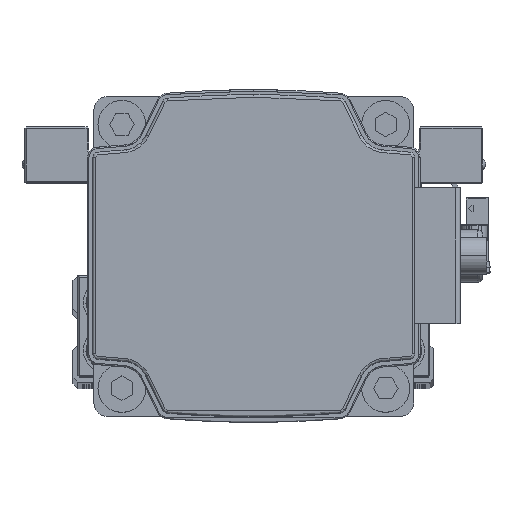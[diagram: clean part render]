
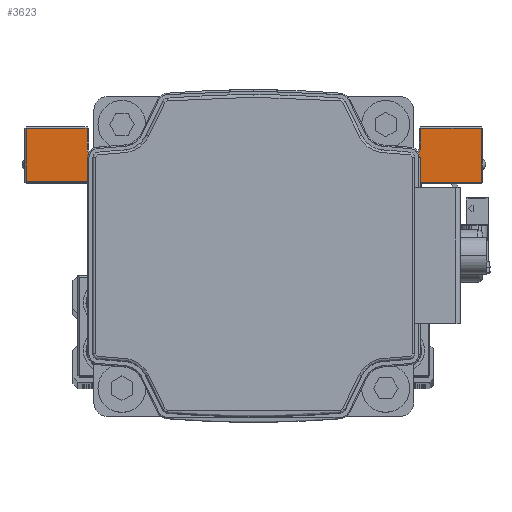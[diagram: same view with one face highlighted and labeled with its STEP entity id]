
A CAD part, top view. The second image highlights one B-rep face of the part: STEP entity #3623.
In plain terms, the highlighted planar face has unit normal (0, 0, 1) as drawn and (1, 0, 0) by its records, which use the part's own axes.
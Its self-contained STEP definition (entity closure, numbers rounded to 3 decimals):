
#79 = EDGE_CURVE ( 'NONE', #26409, #22979, #23887, .T. ) ;
#204 = VERTEX_POINT ( 'NONE', #18466 ) ;
#451 = EDGE_CURVE ( 'NONE', #204, #13661, #561, .T. ) ;
#561 = LINE ( 'NONE', #13721, #37555 ) ;
#1324 = CARTESIAN_POINT ( 'NONE',  ( 45., 14., 31.3 ) ) ;
#1489 = CARTESIAN_POINT ( 'NONE',  ( 45., 7.5, 19.7 ) ) ;
#2340 = DIRECTION ( 'NONE',  ( 0., -1., 0. ) ) ;
#2875 = CARTESIAN_POINT ( 'NONE',  ( 45., 7.5, -20. ) ) ;
#3623 = ADVANCED_FACE ( 'NONE', ( #19251 ), #32385, .F. ) ;
#4107 = CARTESIAN_POINT ( 'NONE',  ( 45., 7.5, -19.7 ) ) ;
#4463 = DIRECTION ( 'NONE',  ( -1., 0., 0. ) ) ;
#4872 = LINE ( 'NONE', #18016, #32530 ) ;
#5010 = CARTESIAN_POINT ( 'NONE',  ( 45., 17.7, 31.3 ) ) ;
#5025 = VECTOR ( 'NONE', #36927, 1000. ) ;
#5233 = CARTESIAN_POINT ( 'NONE',  ( 45., 14., -30. ) ) ;
#5829 = ORIENTED_EDGE ( 'NONE', *, *, #10706, .T. ) ;
#6176 = VECTOR ( 'NONE', #7527, 1000. ) ;
#7442 = LINE ( 'NONE', #20566, #22603 ) ;
#7527 = DIRECTION ( 'NONE',  ( 0., 0., 1. ) ) ;
#8692 = VERTEX_POINT ( 'NONE', #5010 ) ;
#10556 = CARTESIAN_POINT ( 'NONE',  ( 45., 7.5, -42.7 ) ) ;
#10592 = CARTESIAN_POINT ( 'NONE',  ( 45., 7.5, -42.7 ) ) ;
#10625 = CARTESIAN_POINT ( 'NONE',  ( 45., 17.7, -31.3 ) ) ;
#10671 = LINE ( 'NONE', #23794, #5025 ) ;
#10706 = EDGE_CURVE ( 'NONE', #24744, #26409, #40053, .T. ) ;
#10915 = ORIENTED_EDGE ( 'NONE', *, *, #17058, .T. ) ;
#10967 = ORIENTED_EDGE ( 'NONE', *, *, #31938, .T. ) ;
#11357 = LINE ( 'NONE', #24478, #38802 ) ;
#11631 = VERTEX_POINT ( 'NONE', #13119 ) ;
#11649 = DIRECTION ( 'NONE',  ( 0., 0., 1. ) ) ;
#11819 = VECTOR ( 'NONE', #17253, 1000. ) ;
#12180 = VECTOR ( 'NONE', #11649, 1000. ) ;
#13068 = EDGE_CURVE ( 'NONE', #11631, #34834, #36352, .T. ) ;
#13113 = AXIS2_PLACEMENT_3D ( 'NONE', #2875, #16037, #29167 ) ;
#13119 = CARTESIAN_POINT ( 'NONE',  ( 45., 12.7, 30. ) ) ;
#13597 = LINE ( 'NONE', #26723, #16194 ) ;
#13661 = VERTEX_POINT ( 'NONE', #35393 ) ;
#13721 = CARTESIAN_POINT ( 'NONE',  ( 45., -8.2, -20. ) ) ;
#13831 = CIRCLE ( 'NONE', #37897, 1.3 ) ;
#14637 = DIRECTION ( 'NONE',  ( 0., -1., 0. ) ) ;
#15427 = EDGE_CURVE ( 'NONE', #25688, #11631, #13597, .T. ) ;
#16037 = DIRECTION ( 'NONE',  ( -1., 0., 0. ) ) ;
#16194 = VECTOR ( 'NONE', #39868, 1000. ) ;
#16820 = VECTOR ( 'NONE', #14637, 1000. ) ;
#16869 = ORIENTED_EDGE ( 'NONE', *, *, #79, .T. ) ;
#16997 = CARTESIAN_POINT ( 'NONE',  ( 45., 17.7, -42.7 ) ) ;
#17058 = EDGE_CURVE ( 'NONE', #33356, #41572, #7442, .T. ) ;
#17253 = DIRECTION ( 'NONE',  ( 0., 1., 0. ) ) ;
#17607 = DIRECTION ( 'NONE',  ( 0., 0., 1. ) ) ;
#17780 = AXIS2_PLACEMENT_3D ( 'NONE', #33959, #4463, #17607 ) ;
#18016 = CARTESIAN_POINT ( 'NONE',  ( 45., 7.5, 43. ) ) ;
#18367 = DIRECTION ( 'NONE',  ( -1., 0., 0. ) ) ;
#18466 = CARTESIAN_POINT ( 'NONE',  ( 45., -8.2, 19.7 ) ) ;
#18715 = LINE ( 'NONE', #31854, #37865 ) ;
#19251 = FACE_OUTER_BOUND ( 'NONE', #30181, .T. ) ;
#19288 = EDGE_CURVE ( 'NONE', #22979, #19535, #18715, .T. ) ;
#19535 = VERTEX_POINT ( 'NONE', #30023 ) ;
#19707 = EDGE_CURVE ( 'NONE', #19535, #25688, #13831, .T. ) ;
#20566 = CARTESIAN_POINT ( 'NONE',  ( 45., 7.8, 20. ) ) ;
#20694 = ORIENTED_EDGE ( 'NONE', *, *, #39766, .T. ) ;
#20921 = CARTESIAN_POINT ( 'NONE',  ( 45., 17.7, 42.7 ) ) ;
#20962 = EDGE_CURVE ( 'NONE', #40520, #24744, #4872, .T. ) ;
#21336 = EDGE_CURVE ( 'NONE', #26039, #33356, #10671, .T. ) ;
#21425 = ORIENTED_EDGE ( 'NONE', *, *, #19288, .T. ) ;
#21889 = CARTESIAN_POINT ( 'NONE',  ( 45., 7.8, 19.7 ) ) ;
#22177 = EDGE_CURVE ( 'NONE', #34834, #8692, #11357, .T. ) ;
#22603 = VECTOR ( 'NONE', #33697, 1000. ) ;
#22979 = VERTEX_POINT ( 'NONE', #10625 ) ;
#23581 = ORIENTED_EDGE ( 'NONE', *, *, #15427, .T. ) ;
#23681 = DIRECTION ( 'NONE',  ( 0., 1., 0. ) ) ;
#23794 = CARTESIAN_POINT ( 'NONE',  ( 45., 7.5, 42.7 ) ) ;
#23887 = LINE ( 'NONE', #37023, #6176 ) ;
#24478 = CARTESIAN_POINT ( 'NONE',  ( 45., 7.5, 31.3 ) ) ;
#24744 = VERTEX_POINT ( 'NONE', #10592 ) ;
#25688 = VERTEX_POINT ( 'NONE', #27857 ) ;
#26039 = VERTEX_POINT ( 'NONE', #20921 ) ;
#26409 = VERTEX_POINT ( 'NONE', #16997 ) ;
#26723 = CARTESIAN_POINT ( 'NONE',  ( 45., 12.7, 30. ) ) ;
#26858 = DIRECTION ( 'NONE',  ( 0., 0., -1. ) ) ;
#27227 = ORIENTED_EDGE ( 'NONE', *, *, #36474, .T. ) ;
#27857 = CARTESIAN_POINT ( 'NONE',  ( 45., 12.7, -30. ) ) ;
#28017 = LINE ( 'NONE', #41160, #12180 ) ;
#28837 = ORIENTED_EDGE ( 'NONE', *, *, #21336, .T. ) ;
#29167 = DIRECTION ( 'NONE',  ( 0., 0., 1. ) ) ;
#29582 = VECTOR ( 'NONE', #23681, 1000. ) ;
#30023 = CARTESIAN_POINT ( 'NONE',  ( 45., 14., -31.3 ) ) ;
#30181 = EDGE_LOOP ( 'NONE', ( #27227, #33548, #5829, #16869, #21425, #35587, #23581, #31802, #42335, #10967, #28837, #10915, #20694, #41214 ) ) ;
#30993 = LINE ( 'NONE', #1489, #16820 ) ;
#31145 = DIRECTION ( 'NONE',  ( 0., 0., -1. ) ) ;
#31503 = DIRECTION ( 'NONE',  ( 0., 0., 1. ) ) ;
#31802 = ORIENTED_EDGE ( 'NONE', *, *, #13068, .T. ) ;
#31854 = CARTESIAN_POINT ( 'NONE',  ( 45., 7.5, -31.3 ) ) ;
#31938 = EDGE_CURVE ( 'NONE', #8692, #26039, #28017, .T. ) ;
#32385 = PLANE ( 'NONE',  #13113 ) ;
#32530 = VECTOR ( 'NONE', #31145, 1000. ) ;
#33356 = VERTEX_POINT ( 'NONE', #42079 ) ;
#33548 = ORIENTED_EDGE ( 'NONE', *, *, #20962, .T. ) ;
#33613 = LINE ( 'NONE', #4107, #11819 ) ;
#33697 = DIRECTION ( 'NONE',  ( 0., 0., -1. ) ) ;
#33959 = CARTESIAN_POINT ( 'NONE',  ( 45., 14., 30. ) ) ;
#34834 = VERTEX_POINT ( 'NONE', #1324 ) ;
#35393 = CARTESIAN_POINT ( 'NONE',  ( 45., -8.2, -19.7 ) ) ;
#35587 = ORIENTED_EDGE ( 'NONE', *, *, #19707, .T. ) ;
#36352 = CIRCLE ( 'NONE', #17780, 1.3 ) ;
#36474 = EDGE_CURVE ( 'NONE', #13661, #40520, #33613, .T. ) ;
#36927 = DIRECTION ( 'NONE',  ( 0., -1., 0. ) ) ;
#37023 = CARTESIAN_POINT ( 'NONE',  ( 45., 17.7, -20. ) ) ;
#37555 = VECTOR ( 'NONE', #26858, 1000. ) ;
#37630 = DIRECTION ( 'NONE',  ( 0., 1., 0. ) ) ;
#37865 = VECTOR ( 'NONE', #2340, 1000. ) ;
#37897 = AXIS2_PLACEMENT_3D ( 'NONE', #5233, #18367, #31503 ) ;
#38802 = VECTOR ( 'NONE', #37630, 1000. ) ;
#39766 = EDGE_CURVE ( 'NONE', #41572, #204, #30993, .T. ) ;
#39868 = DIRECTION ( 'NONE',  ( 0., 0., 1. ) ) ;
#40053 = LINE ( 'NONE', #10556, #29582 ) ;
#40520 = VERTEX_POINT ( 'NONE', #40769 ) ;
#40769 = CARTESIAN_POINT ( 'NONE',  ( 45., 7.5, -19.7 ) ) ;
#41160 = CARTESIAN_POINT ( 'NONE',  ( 45., 17.7, -20. ) ) ;
#41214 = ORIENTED_EDGE ( 'NONE', *, *, #451, .T. ) ;
#41572 = VERTEX_POINT ( 'NONE', #21889 ) ;
#42079 = CARTESIAN_POINT ( 'NONE',  ( 45., 7.8, 42.7 ) ) ;
#42335 = ORIENTED_EDGE ( 'NONE', *, *, #22177, .T. ) ;
